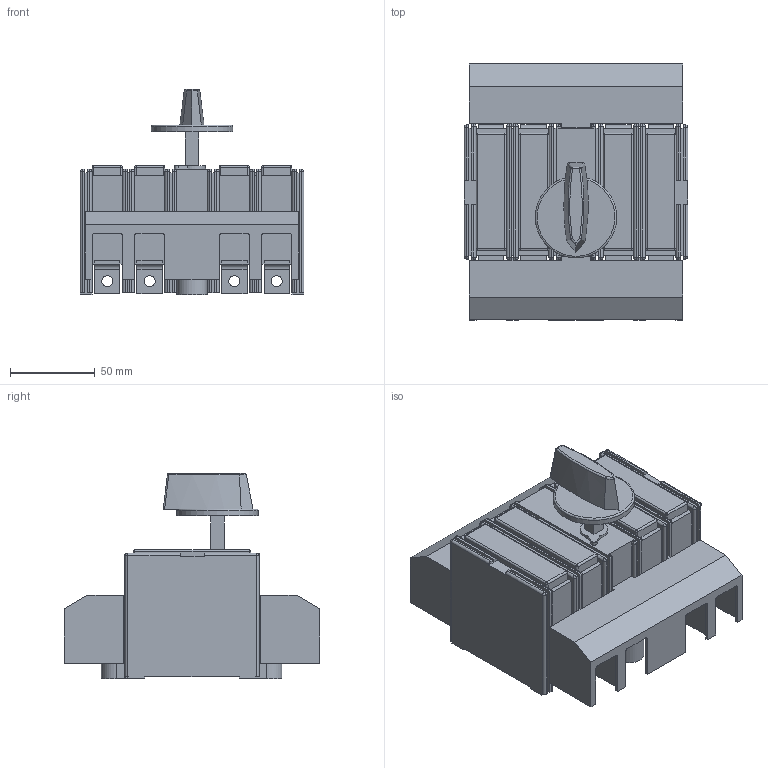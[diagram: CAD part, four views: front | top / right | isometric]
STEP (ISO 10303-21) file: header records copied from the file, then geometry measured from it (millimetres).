
FILE_DESCRIPTION(/* description */ (''),/* implementation_level */ '2;1');
FILE_NAME(/* name */ 'RA100 P3 NA-R z oslonka zaciskow, RA100 P4 A-R z oslonka zaciskow.stp',/* time_stamp */ '2021-08-17T12:40:59+02:00',/* author */ (''),/* organization */ (''),/* preprocessor_version */ 'ST-DEVELOPER v18.1',/* originating_system */ 'SIEMENS PLM Software NX 1965',/* authorisation */ '');
FILE_SCHEMA (('AUTOMOTIVE_DESIGN { 1 0 10303 214 3 1 1 }','MODEL_BASED_INTEGRATED_MANUFACTURING_SCHEMA'));
Length unit declared in the file: millimetre
Products named in the file (1): RA100 P3 NA-R z oslonka zaciskow,  RA100 P4 A-R z oslonka zaciskow_st
p
Bounding box: 132 x 151.03 x 121 mm (x, y, z)
Volume: 713819.6 mm3; surface area: 134709.3 mm2
Topology: 1 solids, 1 shells, 512 faces, 1393 edges, 852 vertices
Faces by surface type: plane 318, cylinder 145, sphere 41, bspline 7, torus 1
Full cylindrical faces by diameter (mm): 5.8 x2, 6.5 x8, 10 x2, 11.5 x2, 48 x1
Entity records: 15664 total; most frequent: CARTESIAN_POINT 2924, ORIENTED_EDGE 2654, DIRECTION 2614, EDGE_CURVE 1327, LINE 1014, VECTOR 1014, VERTEX_POINT 844, AXIS2_PLACEMENT_3D 800
